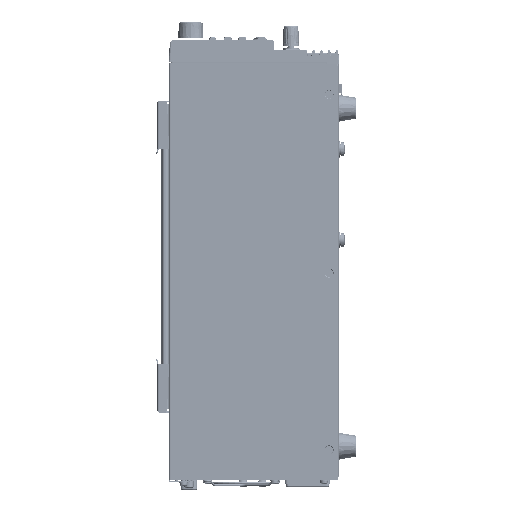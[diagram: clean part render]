
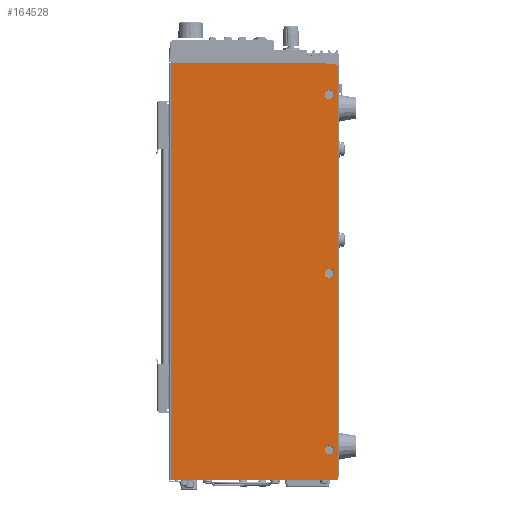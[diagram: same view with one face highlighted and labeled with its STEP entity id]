
A CAD part, left-side view. The second image highlights one B-rep face of the part: STEP entity #164528.
In plain terms, the highlighted planar face has unit normal (-1, 0, 0).
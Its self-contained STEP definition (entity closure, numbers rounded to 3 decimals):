
#163231=CARTESIAN_POINT('',(-53.3,2.7,-2.2));
#163232=DIRECTION('',(1.,0.,0.));
#163233=DIRECTION('',(0.,0.,1.));
#163234=AXIS2_PLACEMENT_3D('',#163231,#163232,#163233);
#163236=CARTESIAN_POINT('',(-53.3,2.7,-300.7));
#163237=DIRECTION('',(1.,0.,0.));
#163238=DIRECTION('',(0.,-1.,0.));
#163239=AXIS2_PLACEMENT_3D('',#163236,#163237,#163238);
#163241=DIRECTION('',(0.,1.,0.));
#163242=VECTOR('',#163241,119.8);
#163243=CARTESIAN_POINT('',(-53.3,2.7,-302.7));
#163244=LINE('',#163243,#163242);
#163245=CARTESIAN_POINT('',(-53.3,10.097,-0.1));
#163246=DIRECTION('',(1.,0.,0.));
#163247=DIRECTION('',(0.,0.,1.));
#163248=AXIS2_PLACEMENT_3D('',#163245,#163246,#163247);
#163250=DIRECTION('',(0.,0.,-1.));
#163251=VECTOR('',#163250,0.1);
#163252=CARTESIAN_POINT('',(-53.3,9.097,-0.1));
#163253=LINE('',#163252,#163251);
#163254=DIRECTION('',(0.,-1.,0.));
#163255=VECTOR('',#163254,6.397);
#163256=CARTESIAN_POINT('',(-53.3,9.097,-0.2));
#163257=LINE('',#163256,#163255);
#163258=CARTESIAN_POINT('',(-53.3,7.2,-22.1));
#163259=DIRECTION('',(-1.,0.,0.));
#163260=DIRECTION('',(0.,0.,-1.));
#163261=AXIS2_PLACEMENT_3D('',#163258,#163259,#163260);
#163263=CARTESIAN_POINT('',(-53.3,7.2,-22.1));
#163264=DIRECTION('',(-1.,0.,0.));
#163265=DIRECTION('',(0.,0.,1.));
#163266=AXIS2_PLACEMENT_3D('',#163263,#163264,#163265);
#163268=CARTESIAN_POINT('',(-53.3,7.2,-152.1));
#163269=DIRECTION('',(-1.,0.,0.));
#163270=DIRECTION('',(0.,0.,-1.));
#163271=AXIS2_PLACEMENT_3D('',#163268,#163269,#163270);
#163273=CARTESIAN_POINT('',(-53.3,7.2,-152.1));
#163274=DIRECTION('',(-1.,0.,0.));
#163275=DIRECTION('',(0.,0.,1.));
#163276=AXIS2_PLACEMENT_3D('',#163273,#163274,#163275);
#163278=CARTESIAN_POINT('',(-53.3,7.2,-280.7));
#163279=DIRECTION('',(-1.,0.,0.));
#163280=DIRECTION('',(0.,0.,1.));
#163281=AXIS2_PLACEMENT_3D('',#163278,#163279,#163280);
#163283=CARTESIAN_POINT('',(-53.3,7.2,-280.7));
#163284=DIRECTION('',(-1.,0.,0.));
#163285=DIRECTION('',(0.,0.,-1.));
#163286=AXIS2_PLACEMENT_3D('',#163283,#163284,#163285);
#163316=DIRECTION('',(0.,1.,0.));
#163317=VECTOR('',#163316,112.403);
#163318=CARTESIAN_POINT('',(-53.3,10.097,0.9));
#163319=LINE('',#163318,#163317);
#163334=DIRECTION('',(0.,0.,-1.));
#163335=VECTOR('',#163334,303.6);
#163336=CARTESIAN_POINT('',(-53.3,122.5,0.9));
#163337=LINE('',#163336,#163335);
#163372=DIRECTION('',(0.,0.,1.));
#163373=VECTOR('',#163372,298.5);
#163374=CARTESIAN_POINT('',(-53.3,0.7,-300.7));
#163375=LINE('',#163374,#163373);
#164209=CARTESIAN_POINT('',(-53.3,2.7,-0.2));
#164210=CARTESIAN_POINT('',(-53.3,0.7,-2.2));
#164211=VERTEX_POINT('',#164209);
#164212=VERTEX_POINT('',#164210);
#164213=CARTESIAN_POINT('',(-53.3,0.7,-300.7));
#164214=VERTEX_POINT('',#164213);
#164215=CARTESIAN_POINT('',(-53.3,2.7,-302.7));
#164216=VERTEX_POINT('',#164215);
#164217=CARTESIAN_POINT('',(-53.3,122.5,-302.7));
#164218=VERTEX_POINT('',#164217);
#164219=CARTESIAN_POINT('',(-53.3,122.5,0.9));
#164220=VERTEX_POINT('',#164219);
#164221=CARTESIAN_POINT('',(-53.3,10.097,0.9));
#164222=VERTEX_POINT('',#164221);
#164223=CARTESIAN_POINT('',(-53.3,9.097,-0.1));
#164224=VERTEX_POINT('',#164223);
#164225=CARTESIAN_POINT('',(-53.3,9.097,-0.2));
#164226=VERTEX_POINT('',#164225);
#164227=CARTESIAN_POINT('',(-53.3,7.2,-25.35));
#164228=CARTESIAN_POINT('',(-53.3,7.2,-18.85));
#164229=VERTEX_POINT('',#164227);
#164230=VERTEX_POINT('',#164228);
#164231=CARTESIAN_POINT('',(-53.3,7.2,-155.35));
#164232=CARTESIAN_POINT('',(-53.3,7.2,-148.85));
#164233=VERTEX_POINT('',#164231);
#164234=VERTEX_POINT('',#164232);
#164235=CARTESIAN_POINT('',(-53.3,7.2,-277.45));
#164236=CARTESIAN_POINT('',(-53.3,7.2,-283.95));
#164237=VERTEX_POINT('',#164235);
#164238=VERTEX_POINT('',#164236);
#164485=CARTESIAN_POINT('',(-53.3,122.5,0.9));
#164486=DIRECTION('',(-1.,0.,0.));
#164487=DIRECTION('',(0.,-1.,0.));
#164488=AXIS2_PLACEMENT_3D('',#164485,#164486,#164487);
#164489=PLANE('',#164488);
#164491=ORIENTED_EDGE('',*,*,#164490,.T.);
#164493=ORIENTED_EDGE('',*,*,#164492,.F.);
#164495=ORIENTED_EDGE('',*,*,#164494,.T.);
#164497=ORIENTED_EDGE('',*,*,#164496,.T.);
#164499=ORIENTED_EDGE('',*,*,#164498,.F.);
#164501=ORIENTED_EDGE('',*,*,#164500,.F.);
#164503=ORIENTED_EDGE('',*,*,#164502,.T.);
#164505=ORIENTED_EDGE('',*,*,#164504,.T.);
#164507=ORIENTED_EDGE('',*,*,#164506,.T.);
#164508=EDGE_LOOP('',(#164491,#164493,#164495,#164497,#164499,#164501,#164503,
#164505,#164507));
#164509=FACE_OUTER_BOUND('',#164508,.F.);
#164511=ORIENTED_EDGE('',*,*,#164510,.T.);
#164513=ORIENTED_EDGE('',*,*,#164512,.T.);
#164514=EDGE_LOOP('',(#164511,#164513));
#164515=FACE_BOUND('',#164514,.F.);
#164517=ORIENTED_EDGE('',*,*,#164516,.T.);
#164519=ORIENTED_EDGE('',*,*,#164518,.T.);
#164520=EDGE_LOOP('',(#164517,#164519));
#164521=FACE_BOUND('',#164520,.F.);
#164523=ORIENTED_EDGE('',*,*,#164522,.T.);
#164525=ORIENTED_EDGE('',*,*,#164524,.T.);
#164526=EDGE_LOOP('',(#164523,#164525));
#164527=FACE_BOUND('',#164526,.F.);
#164528=ADVANCED_FACE('',(#164509,#164515,#164521,#164527),#164489,.T.);
#163235=CIRCLE('',#163234,2.);
#163240=CIRCLE('',#163239,2.);
#163249=CIRCLE('',#163248,1.);
#163262=CIRCLE('',#163261,3.25);
#163267=CIRCLE('',#163266,3.25);
#163272=CIRCLE('',#163271,3.25);
#163277=CIRCLE('',#163276,3.25);
#163282=CIRCLE('',#163281,3.25);
#163287=CIRCLE('',#163286,3.25);
#164490=EDGE_CURVE('',#164211,#164212,#163235,.T.);
#164492=EDGE_CURVE('',#164214,#164212,#163375,.T.);
#164494=EDGE_CURVE('',#164214,#164216,#163240,.T.);
#164496=EDGE_CURVE('',#164216,#164218,#163244,.T.);
#164498=EDGE_CURVE('',#164220,#164218,#163337,.T.);
#164500=EDGE_CURVE('',#164222,#164220,#163319,.T.);
#164502=EDGE_CURVE('',#164222,#164224,#163249,.T.);
#164504=EDGE_CURVE('',#164224,#164226,#163253,.T.);
#164506=EDGE_CURVE('',#164226,#164211,#163257,.T.);
#164510=EDGE_CURVE('',#164229,#164230,#163262,.T.);
#164512=EDGE_CURVE('',#164230,#164229,#163267,.T.);
#164516=EDGE_CURVE('',#164233,#164234,#163272,.T.);
#164518=EDGE_CURVE('',#164234,#164233,#163277,.T.);
#164522=EDGE_CURVE('',#164237,#164238,#163282,.T.);
#164524=EDGE_CURVE('',#164238,#164237,#163287,.T.);
